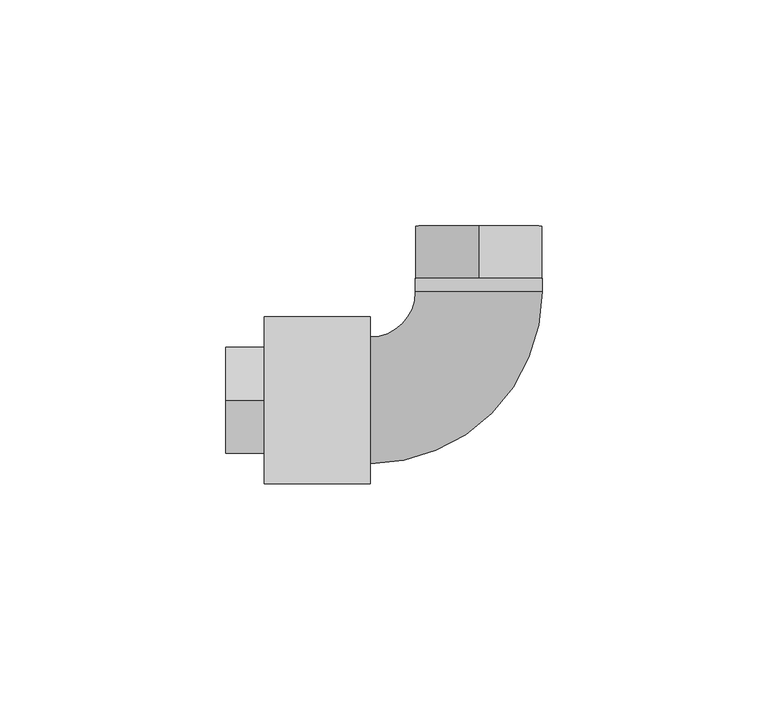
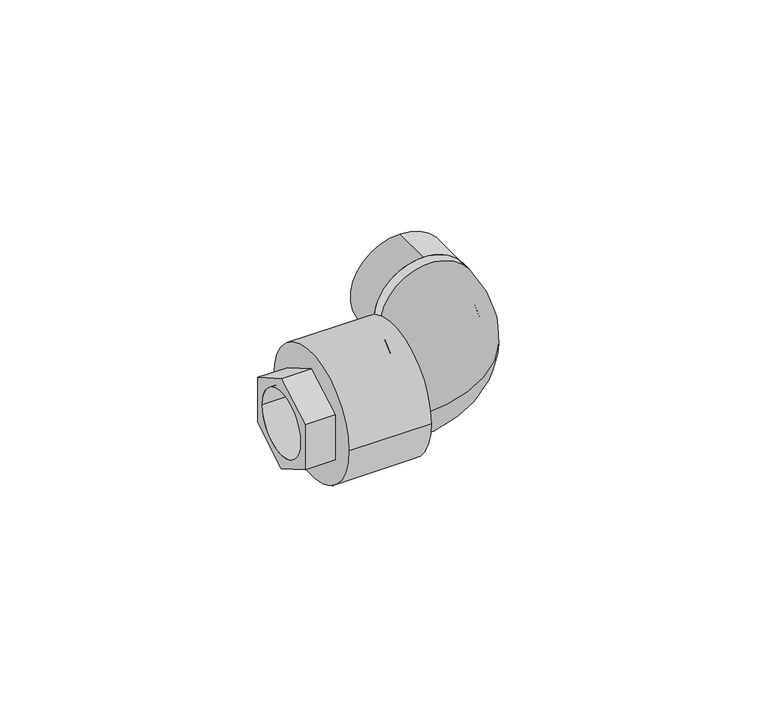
"""IFC4 building model written with IfcOpenShell, lengths in millimetres: pipe fitting geometry, 45_Угольник с накидной гайкой : Серый цвет."""

from ifc_helpers import new_model, si_unit, point, frame, frame_2d, origin, origin_2d, place, context, project, spatial, polyline, circle_curve, ellipse_curve, trimmed, segment, composite_curve, outline, extrude, source, transform, mapped, element, save
from ifc_brep_helpers import plane_surface, revolved_surface, advanced_brep


def pipe_fitting_03e7ff51(model_context):
    return source(origin(), model_context, "Body", "SolidModel", [
        extrude(outline(polyline([(-11.71, 6.7607717), (0.0, 13.5215433), (11.71, 6.7607717), (11.71, -6.7607717), (0.0, -13.5215433), (-11.71, -6.7607717), (-11.71, 6.7607717)]), holes=[composite_curve([segment(trimmed(circle_curve(origin_2d(), 9.4), [point((-9.4, 0.0))], [point((9.4, 0.0))], True, "CARTESIAN"), True, "CONTINUOUS"), segment(trimmed(circle_curve(origin_2d(), 9.4), [point((9.4, 0.0))], [point((-9.4, 0.0))], True, "CARTESIAN"), True, "CONTINUOUS")], self_intersect=False)]), frame((-52.27, 0.0, 0.0), z_axis=(1.0, 0.0, 0.0), x_axis=(0.0, 1.0, 0.0)), (0.0, 0.0, 1.0), 8.5),
        advanced_brep(
        [(-10.35, 24.0, 0.0), (17.65, 24.0, 0.0), (-6.35, 24.0, 0.0), (13.65, 24.0, 0.0), (-20.35, 14.0, 0.0), (-20.35, -14.0, 0.0), (-20.35, 10.0, 0.0), (-20.35, -10.0, 0.0)],
        [
            (0, 1, circle_curve(frame((3.65, 24.0, 0.0), z_axis=(0.0, 1.0, 0.0), x_axis=(1.0, 0.0, 0.0)), 14.0)),
            (1, 0, circle_curve(frame((3.65, 24.0, 0.0), z_axis=(0.0, 1.0, 0.0), x_axis=(1.0, 0.0, 0.0)), 14.0)),
            (2, 3, circle_curve(frame((3.65, 24.0, 0.0), z_axis=(0.0, -1.0, 0.0), x_axis=(1.0, 0.0, 0.0)), 10.0)),
            (3, 2, circle_curve(frame((3.65, 24.0, 0.0), z_axis=(0.0, -1.0, 0.0), x_axis=(1.0, 0.0, 0.0)), 10.0)),
            (4, 5, circle_curve(frame((-20.35, 0.0, 0.0), z_axis=(-1.0, 0.0, 0.0), x_axis=(0.0, -1.0, 0.0)), 14.0)),
            (5, 4, circle_curve(frame((-20.35, 0.0, 0.0), z_axis=(-1.0, 0.0, 0.0), x_axis=(0.0, -1.0, 0.0)), 14.0)),
            (6, 7, circle_curve(frame((-20.35, 0.0, 0.0), z_axis=(1.0, 0.0, 0.0), x_axis=(0.0, -1.0, 0.0)), 10.0)),
            (7, 6, circle_curve(frame((-20.35, 0.0, 0.0), z_axis=(1.0, 0.0, 0.0), x_axis=(0.0, -1.0, 0.0)), 10.0)),
            (0, 4, circle_curve(frame((-20.35, 24.0, 0.0), z_axis=(0.0, 0.0, -1.0), x_axis=(1.0, 0.0, 0.0)), 10.0)),
            (5, 1, circle_curve(frame((-20.35, 24.0, 0.0), z_axis=(0.0, 0.0, 1.0), x_axis=(1.0, 0.0, 0.0)), 38.0)),
            (2, 6, circle_curve(frame((-20.35, 24.0, 0.0), z_axis=(0.0, 0.0, -1.0), x_axis=(1.0, 0.0, 0.0)), 14.0)),
            (7, 3, circle_curve(frame((-20.35, 24.0, 0.0), z_axis=(0.0, 0.0, 1.0), x_axis=(1.0, 0.0, 0.0)), 34.0)),
        ],
        [
            plane_surface(frame((3.65, 24.0, 0.0), z_axis=(0.0, 1.0, 0.0), x_axis=(0.0, 0.0, 1.0))),
            plane_surface(frame((-20.35, 0.0, 0.0), z_axis=(-1.0, 0.0, 0.0), x_axis=(0.0, 0.0, 1.0))),
            revolved_surface(trimmed(ellipse_curve(frame((3.65, 24.0, 0.0), z_axis=(0.0, 1.0, 0.0), x_axis=(1.0, 0.0, 0.0)), 14.0, 14.0), [point((-10.35, 24.0, 0.0))], [point((17.65, 24.0, 0.0))], True, "CARTESIAN"), (-20.35, 24.0, 0.0), (0.0, 0.0, -1.0)),
            revolved_surface(trimmed(ellipse_curve(frame((3.65, 24.0, 0.0), z_axis=(0.0, 1.0, 0.0), x_axis=(1.0, 0.0, 0.0)), 14.0, 14.0), [point((17.65, 24.0, 0.0))], [point((-10.35, 24.0, 0.0))], True, "CARTESIAN"), (-20.35, 24.0, 0.0), (0.0, 0.0, -1.0)),
            revolved_surface(trimmed(ellipse_curve(frame((3.65, 24.0, 0.0), z_axis=(0.0, -1.0, 0.0), x_axis=(1.0, 0.0, 0.0)), 10.0, 10.0), [point((-6.35, 24.0, 0.0))], [point((13.65, 24.0, 0.0))], True, "CARTESIAN"), (-20.35, 24.0, 0.0), (0.0, 0.0, -1.0)),
            revolved_surface(trimmed(ellipse_curve(frame((3.65, 24.0, 0.0), z_axis=(0.0, -1.0, 0.0), x_axis=(1.0, 0.0, 0.0)), 10.0, 10.0), [point((13.65, 24.0, 0.0))], [point((-6.35, 24.0, 0.0))], True, "CARTESIAN"), (-20.35, 24.0, 0.0), (0.0, 0.0, -1.0)),
        ],
        [
            (0, [[1, 2], [3, 4]]),
            (1, [[5, 6], [7, 8]]),
            (2, [[-1, 9, -6, 10]]),
            (3, [[-2, -10, -5, -9]]),
            (4, [[-3, 11, -8, 12]]),
            (5, [[-4, -12, -7, -11]]),
        ],
    ),
        extrude(outline(composite_curve([segment(trimmed(circle_curve(origin_2d(), 18.5), [point((-18.5, 0.0))], [point((18.5, 0.0))], False, "CARTESIAN"), True, "CONTINUOUS"), segment(trimmed(circle_curve(origin_2d(), 18.5), [point((18.5, 0.0))], [point((-18.5, 0.0))], False, "CARTESIAN"), True, "CONTINUOUS")], self_intersect=False), holes=[composite_curve([segment(trimmed(circle_curve(origin_2d(), 9.4), [point((-9.4, 0.0))], [point((9.4, 0.0))], True, "CARTESIAN"), True, "CONTINUOUS"), segment(trimmed(circle_curve(origin_2d(), 9.4), [point((9.4, 0.0))], [point((-9.4, 0.0))], True, "CARTESIAN"), True, "CONTINUOUS")], self_intersect=False)]), frame((-43.77, 0.0, 0.0), z_axis=(1.0, 0.0, 0.0), x_axis=(0.0, 1.0, 0.0)), (0.0, 0.0, 1.0), 23.42),
        extrude(outline(composite_curve([segment(trimmed(circle_curve(frame_2d((0.0, 3.65)), 14.0), [point((0.0, -10.35))], [point((0.0, 17.65))], False, "CARTESIAN"), True, "CONTINUOUS"), segment(trimmed(circle_curve(frame_2d((0.0, 3.65)), 14.0), [point((0.0, 17.65))], [point((0.0, -10.35))], False, "CARTESIAN"), True, "CONTINUOUS")], self_intersect=False), holes=[composite_curve([segment(trimmed(circle_curve(frame_2d((0.0, 3.65)), 10.0), [point((0.0, 13.65))], [point((0.0, -6.35))], True, "CARTESIAN"), True, "CONTINUOUS"), segment(trimmed(circle_curve(frame_2d((0.0, 3.65)), 10.0), [point((0.0, -6.35))], [point((0.0, 13.65))], True, "CARTESIAN"), True, "CONTINUOUS")], self_intersect=False)]), frame((0.0, 24.0, 0.0), z_axis=(0.0, 1.0, 0.0), x_axis=(0.0, 0.0, 1.0)), (0.0, 0.0, 1.0), 3.0),
        extrude(outline(composite_curve([segment(trimmed(circle_curve(frame_2d((0.0, 3.65)), 14.0), [point((-14.0, 3.65))], [point((14.0, 3.65))], False, "CARTESIAN"), True, "CONTINUOUS"), segment(trimmed(circle_curve(frame_2d((0.0, 3.65)), 14.0), [point((14.0, 3.65))], [point((-14.0, 3.65))], False, "CARTESIAN"), True, "CONTINUOUS")], self_intersect=False), holes=[composite_curve([segment(trimmed(circle_curve(frame_2d((0.0, 3.65)), 10.0), [point((-10.0, 3.65))], [point((10.0, 3.65))], True, "CARTESIAN"), True, "CONTINUOUS"), segment(trimmed(circle_curve(frame_2d((0.0, 3.65)), 10.0), [point((10.0, 3.65))], [point((-10.0, 3.65))], True, "CARTESIAN"), True, "CONTINUOUS")], self_intersect=False)]), frame((0.0, 27.0, 0.0), z_axis=(0.0, 1.0, 0.0), x_axis=(0.0, 0.0, 1.0)), (0.0, 0.0, 1.0), 11.55),
    ])


if __name__ == "__main__":
    model = new_model("IFC4")
    model_context = context("Model", 3, world=origin())
    ifc_project = project(units=[si_unit("LENGTHUNIT", "METRE", prefix="MILLI")], contexts=[model_context])
    site = spatial("IfcSite", under=ifc_project)
    building = spatial("IfcBuilding", under=site)
    placement = place(None, origin())
    pipe_fitting_shape = pipe_fitting_03e7ff51(model_context)
    element("IfcPipeFitting", 1, ObjectType="45_Угольник с накидной гайкой : Серый цвет", at=placement, inside=building, context=model_context, shape_type="MappedRepresentation", body=[
        mapped(pipe_fitting_shape, transform((0.0, 0.0, 0.0), x_axis=(1.0, 0.0, 0.0), y_axis=(0.0, 1.0, 0.0), z_axis=(0.0, 0.0, 1.0))),
    ])
    save(model, "model.ifc")
